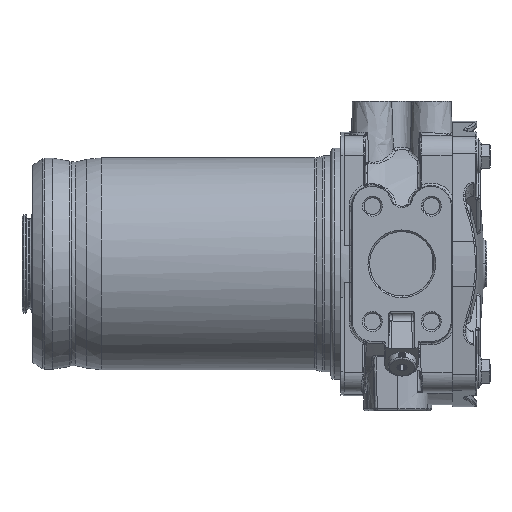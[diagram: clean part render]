
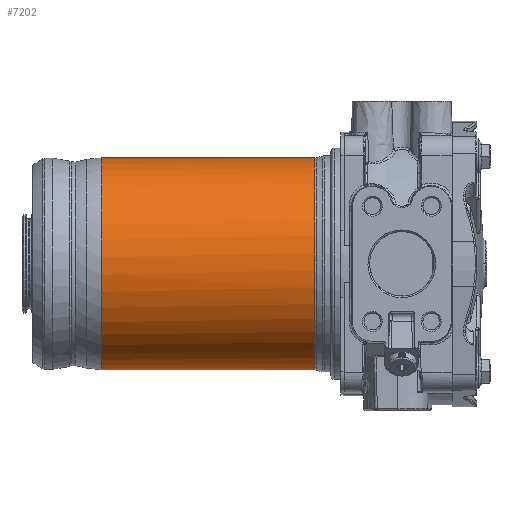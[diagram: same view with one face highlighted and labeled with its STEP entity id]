
A CAD part, left-side view. The second image highlights one B-rep face of the part: STEP entity #7202.
In plain terms, the highlighted free-form (B-spline) face has degree [2, 1] with [7, 2] control points.
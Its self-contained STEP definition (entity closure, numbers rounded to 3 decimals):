
#7115=CARTESIAN_POINT('V1947',(64.25,
   164.938,0.0));
#7116=VERTEX_POINT('V1947',#7115);
#7130=CARTESIAN_POINT('E3161',(64.25,
   164.938,0.0));
#7131=CARTESIAN_POINT('E3161',(64.25,
   164.938,111.284));
#7132=CARTESIAN_POINT('E3161',(-32.125,
   164.938,55.642));
#7133=CARTESIAN_POINT('E3161',(-128.5,
   164.938,0.));
#7134=CARTESIAN_POINT('E3161',(-32.125,
   164.938,-55.642));
#7135=CARTESIAN_POINT('E3161',(64.25,
   164.938,-111.284));
#7136=CARTESIAN_POINT('E3161',(64.25,
   164.938,0.0));
#7144=(BOUNDED_CURVE()B_SPLINE_CURVE(2,(#7130,#7131,#7132,#7133,
   #7134,#7135,#7136),.CIRCULAR_ARC.,.T.,.U.)
   B_SPLINE_CURVE_WITH_KNOTS((3,2,2,3),(0.0,24.843,
   49.686,74.529),.UNSPECIFIED.)CURVE()
   GEOMETRIC_REPRESENTATION_ITEM()RATIONAL_B_SPLINE_CURVE((1.0,
   0.5,1.0,0.5,1.0,0.5,1.0)
   )REPRESENTATION_ITEM('E3161'));
#7145=EDGE_CURVE('E3161',#7116,#7116,#7144,.T.);
#7152=CARTESIAN_POINT('F1197',(64.25,35.626,
   0.0));
#7153=CARTESIAN_POINT('F1197',(64.25,35.626,
   -111.284));
#7154=CARTESIAN_POINT('F1197',(-32.125,
   35.626,-55.642));
#7155=CARTESIAN_POINT('F1197',(-128.5,
   35.626,0.));
#7156=CARTESIAN_POINT('F1197',(-32.125,
   35.626,55.642));
#7157=CARTESIAN_POINT('F1197',(64.25,35.626,
   111.284));
#7158=CARTESIAN_POINT('F1197',(64.25,35.626,
   0.0));
#7159=CARTESIAN_POINT('F1197',(64.25,
   164.938,0.0));
#7160=CARTESIAN_POINT('F1197',(64.25,
   164.938,-111.284));
#7161=CARTESIAN_POINT('F1197',(-32.125,
   164.938,-55.642));
#7162=CARTESIAN_POINT('F1197',(-128.5,
   164.938,0.));
#7163=CARTESIAN_POINT('F1197',(-32.125,
   164.938,55.642));
#7164=CARTESIAN_POINT('F1197',(64.25,
   164.938,111.284));
#7165=CARTESIAN_POINT('F1197',(64.25,
   164.938,0.0));
#7173=(BOUNDED_SURFACE()B_SPLINE_SURFACE(2,1,((#7152,#7159),(
   #7153,#7160),(#7154,#7161),(#7155,#7162),(#7156,#7163),(
   #7157,#7164),(#7158,#7165)),.CYLINDRICAL_SURF.,.T.,.F.,.U.)
   B_SPLINE_SURFACE_WITH_KNOTS((3,2,2,3),(2,2),(0.0,
   1.721,3.442,5.164),(0.0,1.0),
   .UNSPECIFIED.)GEOMETRIC_REPRESENTATION_ITEM()
   RATIONAL_B_SPLINE_SURFACE(((1.0,1.0),(0.5,
   0.5),(1.0,1.0),(0.5,
   0.5),(1.0,1.0),(0.5,
   0.5),(1.0,1.0)))REPRESENTATION_ITEM('F1197')
   SURFACE());
#7174=CARTESIAN_POINT('V1948',(64.25,35.626,
   0.0));
#7175=VERTEX_POINT('V1948',#7174);
#7176=CARTESIAN_POINT('E3162',(64.25,
   164.938,0.0));
#7177=CARTESIAN_POINT('E3162',(64.25,35.626,
   0.0));
#7178=QUASI_UNIFORM_CURVE('E3162',1,(#7176,#7177),.POLYLINE_FORM.,
   .F.,.U.);
#7179=EDGE_CURVE('E3162',#7116,#7175,#7178,.T.);
#7180=ORIENTED_EDGE('E3162',*,*,#7179,.T.);
#7181=CARTESIAN_POINT('E3163',(64.25,35.626,
   0.0));
#7182=CARTESIAN_POINT('E3163',(64.25,35.626,
   -111.284));
#7183=CARTESIAN_POINT('E3163',(-32.125,
   35.626,-55.642));
#7184=CARTESIAN_POINT('E3163',(-128.5,
   35.626,0.));
#7185=CARTESIAN_POINT('E3163',(-32.125,
   35.626,55.642));
#7186=CARTESIAN_POINT('E3163',(64.25,35.626,
   111.284));
#7187=CARTESIAN_POINT('E3163',(64.25,35.626,
   0.0));
#7195=(BOUNDED_CURVE()B_SPLINE_CURVE(2,(#7181,#7182,#7183,#7184,
   #7185,#7186,#7187),.CIRCULAR_ARC.,.T.,.U.)
   B_SPLINE_CURVE_WITH_KNOTS((3,2,2,3),(0.0,1.721,
   3.442,5.164),.UNSPECIFIED.)CURVE()
   GEOMETRIC_REPRESENTATION_ITEM()RATIONAL_B_SPLINE_CURVE((1.0,
   0.5,1.0,0.5,1.0,0.5,1.0)
   )REPRESENTATION_ITEM('E3163'));
#7196=EDGE_CURVE('E3163',#7175,#7175,#7195,.T.);
#7197=ORIENTED_EDGE('E3163',*,*,#7196,.T.);
#7198=ORIENTED_EDGE('E3162',*,*,#7179,.F.);
#7199=ORIENTED_EDGE('E3161',*,*,#7145,.T.);
#7200=EDGE_LOOP('F1197',(#7180,#7197,#7198,#7199));
#7201=FACE_OUTER_BOUND('F1197',#7200,.T.);
#7202=ADVANCED_FACE('F1197',(#7201),#7173,.T.);
